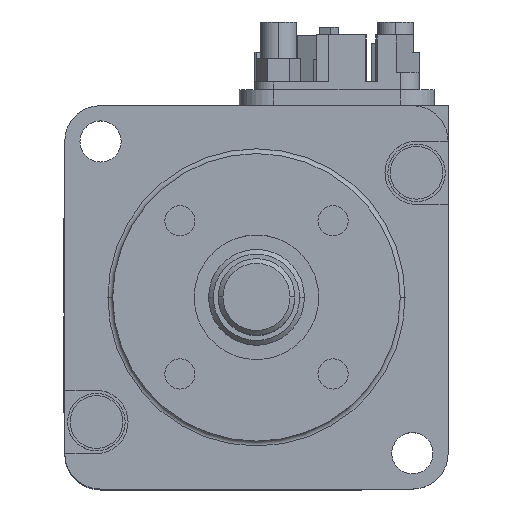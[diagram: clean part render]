
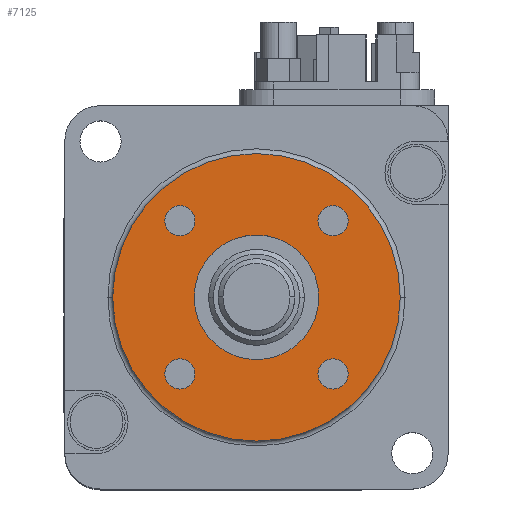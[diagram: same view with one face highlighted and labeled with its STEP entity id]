
A CAD part, top view. The second image highlights one B-rep face of the part: STEP entity #7125.
In plain terms, the highlighted planar face has unit normal (0, 0, 1).
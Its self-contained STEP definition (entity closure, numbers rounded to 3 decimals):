
#35 = EDGE_LOOP ( 'NONE', ( #5018, #4879 ) ) ;
#60 = CARTESIAN_POINT ( 'NONE',  ( 0., 0., 2.5 ) ) ;
#125 = ORIENTED_EDGE ( 'NONE', *, *, #2534, .F. ) ;
#161 = ORIENTED_EDGE ( 'NONE', *, *, #2171, .F. ) ;
#224 = DIRECTION ( 'NONE',  ( 0., 0., 1. ) ) ;
#318 = CARTESIAN_POINT ( 'NONE',  ( 0., 0., 2.5 ) ) ;
#393 = AXIS2_PLACEMENT_3D ( 'NONE', #4046, #224, #1957 ) ;
#516 = PLANE ( 'NONE',  #2756 ) ;
#749 = FACE_BOUND ( 'NONE', #9163, .T. ) ;
#838 = CIRCLE ( 'NONE', #3693, 1.574 ) ;
#928 = DIRECTION ( 'NONE',  ( 1., 0., 0. ) ) ;
#979 = DIRECTION ( 'NONE',  ( 0., 0., 1. ) ) ;
#1027 = AXIS2_PLACEMENT_3D ( 'NONE', #4339, #10344, #1809 ) ;
#1033 = FACE_BOUND ( 'NONE', #3492, .T. ) ;
#1142 = DIRECTION ( 'NONE',  ( 0., 0., 1. ) ) ;
#1210 = EDGE_CURVE ( 'NONE', #5683, #1650, #3123, .T. ) ;
#1239 = VERTEX_POINT ( 'NONE', #2865 ) ;
#1336 = AXIS2_PLACEMENT_3D ( 'NONE', #1951, #979, #8696 ) ;
#1383 = EDGE_CURVE ( 'NONE', #2282, #4246, #838, .T. ) ;
#1386 = DIRECTION ( 'NONE',  ( 1., 0., 0. ) ) ;
#1387 = VERTEX_POINT ( 'NONE', #1561 ) ;
#1425 = CARTESIAN_POINT ( 'NONE',  ( 7.99, -7.99, 2.5 ) ) ;
#1496 = ORIENTED_EDGE ( 'NONE', *, *, #1383, .F. ) ;
#1561 = CARTESIAN_POINT ( 'NONE',  ( 6.5, 0., 2.5 ) ) ;
#1650 = VERTEX_POINT ( 'NONE', #10905 ) ;
#1674 = CARTESIAN_POINT ( 'NONE',  ( -6.416, -7.99, 2.5 ) ) ;
#1731 = CIRCLE ( 'NONE', #3064, 15. ) ;
#1809 = DIRECTION ( 'NONE',  ( 1., 0., 0. ) ) ;
#1910 = EDGE_CURVE ( 'NONE', #6359, #7670, #7940, .T. ) ;
#1917 = DIRECTION ( 'NONE',  ( 0., 0., 1. ) ) ;
#1951 = CARTESIAN_POINT ( 'NONE',  ( 0., 0., 2.5 ) ) ;
#1957 = DIRECTION ( 'NONE',  ( 1., 0., 0. ) ) ;
#2046 = EDGE_CURVE ( 'NONE', #3200, #1239, #5897, .T. ) ;
#2150 = EDGE_LOOP ( 'NONE', ( #6743, #8694 ) ) ;
#2171 = EDGE_CURVE ( 'NONE', #1239, #3200, #9007, .T. ) ;
#2282 = VERTEX_POINT ( 'NONE', #10847 ) ;
#2515 = CIRCLE ( 'NONE', #1027, 1.574 ) ;
#2534 = EDGE_CURVE ( 'NONE', #4246, #2282, #10600, .T. ) ;
#2544 = CARTESIAN_POINT ( 'NONE',  ( 15., 0., 2.5 ) ) ;
#2634 = FACE_BOUND ( 'NONE', #2150, .T. ) ;
#2756 = AXIS2_PLACEMENT_3D ( 'NONE', #7301, #5706, #1386 ) ;
#2759 = CARTESIAN_POINT ( 'NONE',  ( -15., 0., 2.5 ) ) ;
#2798 = DIRECTION ( 'NONE',  ( 0., 0., 1. ) ) ;
#2828 = DIRECTION ( 'NONE',  ( 1., 0., 0. ) ) ;
#2865 = CARTESIAN_POINT ( 'NONE',  ( -9.564, 7.99, 2.5 ) ) ;
#3064 = AXIS2_PLACEMENT_3D ( 'NONE', #10483, #1917, #6213 ) ;
#3123 = CIRCLE ( 'NONE', #10935, 1.574 ) ;
#3200 = VERTEX_POINT ( 'NONE', #10490 ) ;
#3251 = VERTEX_POINT ( 'NONE', #5595 ) ;
#3299 = FACE_BOUND ( 'NONE', #9617, .T. ) ;
#3419 = CARTESIAN_POINT ( 'NONE',  ( -7.99, -7.99, 2.5 ) ) ;
#3433 = CIRCLE ( 'NONE', #1336, 15. ) ;
#3492 = EDGE_LOOP ( 'NONE', ( #11095, #161 ) ) ;
#3610 = EDGE_CURVE ( 'NONE', #3251, #1387, #6718, .T. ) ;
#3645 = VERTEX_POINT ( 'NONE', #2759 ) ;
#3693 = AXIS2_PLACEMENT_3D ( 'NONE', #3419, #8594, #10317 ) ;
#4046 = CARTESIAN_POINT ( 'NONE',  ( -7.99, 7.99, 2.5 ) ) ;
#4246 = VERTEX_POINT ( 'NONE', #1674 ) ;
#4339 = CARTESIAN_POINT ( 'NONE',  ( 7.99, 7.99, 2.5 ) ) ;
#4378 = AXIS2_PLACEMENT_3D ( 'NONE', #60, #7899, #928 ) ;
#4703 = DIRECTION ( 'NONE',  ( 1., 0., 0. ) ) ;
#4838 = AXIS2_PLACEMENT_3D ( 'NONE', #7363, #6496, #9090 ) ;
#4879 = ORIENTED_EDGE ( 'NONE', *, *, #3610, .F. ) ;
#5018 = ORIENTED_EDGE ( 'NONE', *, *, #8024, .F. ) ;
#5083 = VERTEX_POINT ( 'NONE', #2544 ) ;
#5113 = EDGE_CURVE ( 'NONE', #7670, #6359, #2515, .T. ) ;
#5281 = ORIENTED_EDGE ( 'NONE', *, *, #7471, .T. ) ;
#5308 = CARTESIAN_POINT ( 'NONE',  ( -7.99, -7.99, 2.5 ) ) ;
#5320 = AXIS2_PLACEMENT_3D ( 'NONE', #1425, #2798, #5356 ) ;
#5356 = DIRECTION ( 'NONE',  ( 1., 0., 0. ) ) ;
#5595 = CARTESIAN_POINT ( 'NONE',  ( -6.5, 0., 2.5 ) ) ;
#5683 = VERTEX_POINT ( 'NONE', #8567 ) ;
#5706 = DIRECTION ( 'NONE',  ( 0., 0., 1. ) ) ;
#5897 = CIRCLE ( 'NONE', #393, 1.574 ) ;
#6213 = DIRECTION ( 'NONE',  ( 1., 0., 0. ) ) ;
#6250 = DIRECTION ( 'NONE',  ( 0., 0., 1. ) ) ;
#6359 = VERTEX_POINT ( 'NONE', #8637 ) ;
#6389 = DIRECTION ( 'NONE',  ( 0., 0., 1. ) ) ;
#6496 = DIRECTION ( 'NONE',  ( 0., 0., 1. ) ) ;
#6718 = CIRCLE ( 'NONE', #4378, 6.5 ) ;
#6743 = ORIENTED_EDGE ( 'NONE', *, *, #1910, .F. ) ;
#6756 = CIRCLE ( 'NONE', #9225, 6.5 ) ;
#7125 = ADVANCED_FACE ( 'NONE', ( #749, #3299, #1033, #2634, #9859, #7320 ), #516, .T. ) ;
#7301 = CARTESIAN_POINT ( 'NONE',  ( 0., 0., 2.5 ) ) ;
#7320 = FACE_OUTER_BOUND ( 'NONE', #7848, .T. ) ;
#7363 = CARTESIAN_POINT ( 'NONE',  ( 7.99, 7.99, 2.5 ) ) ;
#7449 = CARTESIAN_POINT ( 'NONE',  ( 6.416, 7.99, 2.5 ) ) ;
#7450 = CIRCLE ( 'NONE', #5320, 1.574 ) ;
#7471 = EDGE_CURVE ( 'NONE', #5083, #3645, #3433, .T. ) ;
#7488 = EDGE_CURVE ( 'NONE', #1650, #5683, #7450, .T. ) ;
#7670 = VERTEX_POINT ( 'NONE', #7449 ) ;
#7848 = EDGE_LOOP ( 'NONE', ( #10366, #5281 ) ) ;
#7891 = DIRECTION ( 'NONE',  ( 1., 0., 0. ) ) ;
#7899 = DIRECTION ( 'NONE',  ( 0., 0., 1. ) ) ;
#7940 = CIRCLE ( 'NONE', #4838, 1.574 ) ;
#7973 = CARTESIAN_POINT ( 'NONE',  ( -7.99, 7.99, 2.5 ) ) ;
#8024 = EDGE_CURVE ( 'NONE', #1387, #3251, #6756, .T. ) ;
#8567 = CARTESIAN_POINT ( 'NONE',  ( 9.564, -7.99, 2.5 ) ) ;
#8594 = DIRECTION ( 'NONE',  ( 0., 0., 1. ) ) ;
#8637 = CARTESIAN_POINT ( 'NONE',  ( 9.564, 7.99, 2.5 ) ) ;
#8694 = ORIENTED_EDGE ( 'NONE', *, *, #5113, .F. ) ;
#8696 = DIRECTION ( 'NONE',  ( 1., 0., 0. ) ) ;
#8865 = AXIS2_PLACEMENT_3D ( 'NONE', #5308, #1142, #7891 ) ;
#8870 = DIRECTION ( 'NONE',  ( 1., 0., 0. ) ) ;
#9007 = CIRCLE ( 'NONE', #10382, 1.574 ) ;
#9090 = DIRECTION ( 'NONE',  ( 1., 0., 0. ) ) ;
#9163 = EDGE_LOOP ( 'NONE', ( #9919, #9946 ) ) ;
#9225 = AXIS2_PLACEMENT_3D ( 'NONE', #318, #6389, #4703 ) ;
#9617 = EDGE_LOOP ( 'NONE', ( #125, #1496 ) ) ;
#9724 = DIRECTION ( 'NONE',  ( 0., 0., 1. ) ) ;
#9759 = CARTESIAN_POINT ( 'NONE',  ( 7.99, -7.99, 2.5 ) ) ;
#9859 = FACE_BOUND ( 'NONE', #35, .T. ) ;
#9919 = ORIENTED_EDGE ( 'NONE', *, *, #1210, .F. ) ;
#9946 = ORIENTED_EDGE ( 'NONE', *, *, #7488, .F. ) ;
#10135 = EDGE_CURVE ( 'NONE', #3645, #5083, #1731, .T. ) ;
#10317 = DIRECTION ( 'NONE',  ( 1., 0., 0. ) ) ;
#10344 = DIRECTION ( 'NONE',  ( 0., 0., 1. ) ) ;
#10366 = ORIENTED_EDGE ( 'NONE', *, *, #10135, .T. ) ;
#10382 = AXIS2_PLACEMENT_3D ( 'NONE', #7973, #9724, #2828 ) ;
#10483 = CARTESIAN_POINT ( 'NONE',  ( 0., 0., 2.5 ) ) ;
#10490 = CARTESIAN_POINT ( 'NONE',  ( -6.416, 7.99, 2.5 ) ) ;
#10600 = CIRCLE ( 'NONE', #8865, 1.574 ) ;
#10847 = CARTESIAN_POINT ( 'NONE',  ( -9.564, -7.99, 2.5 ) ) ;
#10905 = CARTESIAN_POINT ( 'NONE',  ( 6.416, -7.99, 2.5 ) ) ;
#10935 = AXIS2_PLACEMENT_3D ( 'NONE', #9759, #6250, #8870 ) ;
#11095 = ORIENTED_EDGE ( 'NONE', *, *, #2046, .F. ) ;
